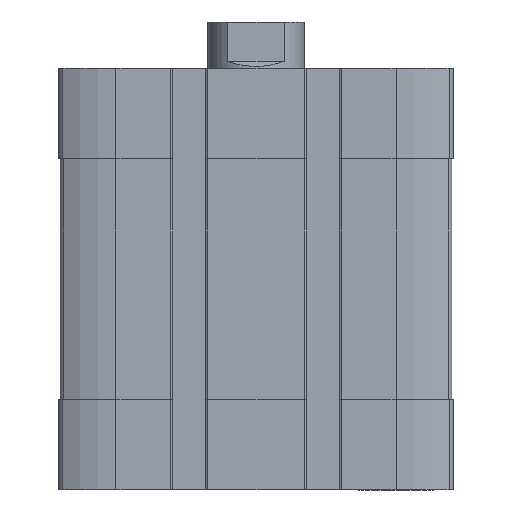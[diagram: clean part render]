
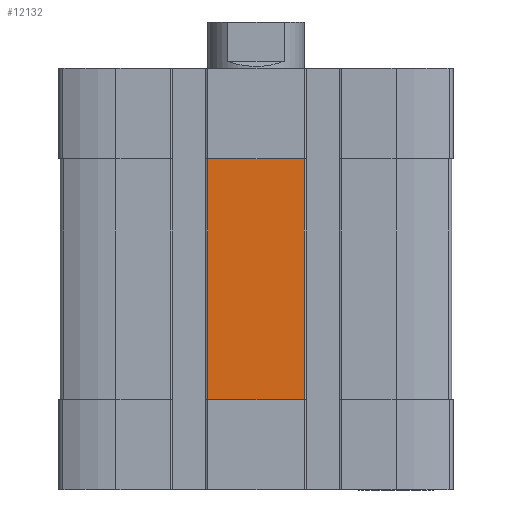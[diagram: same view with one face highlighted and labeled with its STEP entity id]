
A CAD part, front view. The second image highlights one B-rep face of the part: STEP entity #12132.
In plain terms, the highlighted planar face has unit normal (0, -1, 0).
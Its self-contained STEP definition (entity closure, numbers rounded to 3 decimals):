
#43 = DIRECTION ( 'NONE',  ( 0., -1., 0. ) ) ;
#223 = VECTOR ( 'NONE', #5005, 1000. ) ;
#612 = LINE ( 'NONE', #3834, #223 ) ;
#929 = CARTESIAN_POINT ( 'NONE',  ( -8., -32.5, -55. ) ) ;
#1168 = ORIENTED_EDGE ( 'NONE', *, *, #5051, .T. ) ;
#1174 = CARTESIAN_POINT ( 'NONE',  ( -8., -32.5, -55. ) ) ;
#1760 = CARTESIAN_POINT ( 'NONE',  ( -8., -32.5, -55. ) ) ;
#2273 = CARTESIAN_POINT ( 'NONE',  ( -8., -32.5, -15. ) ) ;
#2500 = ORIENTED_EDGE ( 'NONE', *, *, #9776, .T. ) ;
#2574 = LINE ( 'NONE', #929, #4973 ) ;
#2946 = DIRECTION ( 'NONE',  ( 1., 0., 0. ) ) ;
#2971 = ORIENTED_EDGE ( 'NONE', *, *, #7118, .T. ) ;
#3242 = CARTESIAN_POINT ( 'NONE',  ( 8., -32.5, -55. ) ) ;
#3469 = VERTEX_POINT ( 'NONE', #2273 ) ;
#3834 = CARTESIAN_POINT ( 'NONE',  ( 8., -32.5, -55. ) ) ;
#4508 = CARTESIAN_POINT ( 'NONE',  ( 8., -32.5, -15. ) ) ;
#4730 = PLANE ( 'NONE',  #12145 ) ;
#4973 = VECTOR ( 'NONE', #6779, 1000. ) ;
#5005 = DIRECTION ( 'NONE',  ( 0., 0., 1. ) ) ;
#5051 = EDGE_CURVE ( 'NONE', #3469, #10823, #2574, .T. ) ;
#5765 = CARTESIAN_POINT ( 'NONE',  ( -8., -32.5, -55. ) ) ;
#5922 = EDGE_CURVE ( 'NONE', #12984, #3469, #11547, .T. ) ;
#6779 = DIRECTION ( 'NONE',  ( 0., 0., -1. ) ) ;
#7114 = EDGE_LOOP ( 'NONE', ( #2971, #2500, #7867, #1168 ) ) ;
#7118 = EDGE_CURVE ( 'NONE', #10823, #12078, #8575, .T. ) ;
#7867 = ORIENTED_EDGE ( 'NONE', *, *, #5922, .T. ) ;
#8273 = DIRECTION ( 'NONE',  ( 0., 0., -1. ) ) ;
#8444 = VECTOR ( 'NONE', #9584, 1000. ) ;
#8575 = LINE ( 'NONE', #1760, #14465 ) ;
#9584 = DIRECTION ( 'NONE',  ( -1., 0., 0. ) ) ;
#9776 = EDGE_CURVE ( 'NONE', #12078, #12984, #612, .T. ) ;
#10823 = VERTEX_POINT ( 'NONE', #5765 ) ;
#11547 = LINE ( 'NONE', #14268, #8444 ) ;
#12078 = VERTEX_POINT ( 'NONE', #3242 ) ;
#12132 = ADVANCED_FACE ( 'NONE', ( #13517 ), #4730, .T. ) ;
#12145 = AXIS2_PLACEMENT_3D ( 'NONE', #1174, #43, #8273 ) ;
#12984 = VERTEX_POINT ( 'NONE', #4508 ) ;
#13517 = FACE_OUTER_BOUND ( 'NONE', #7114, .T. ) ;
#14268 = CARTESIAN_POINT ( 'NONE',  ( 0., -32.5, -15. ) ) ;
#14465 = VECTOR ( 'NONE', #2946, 1000. ) ;
